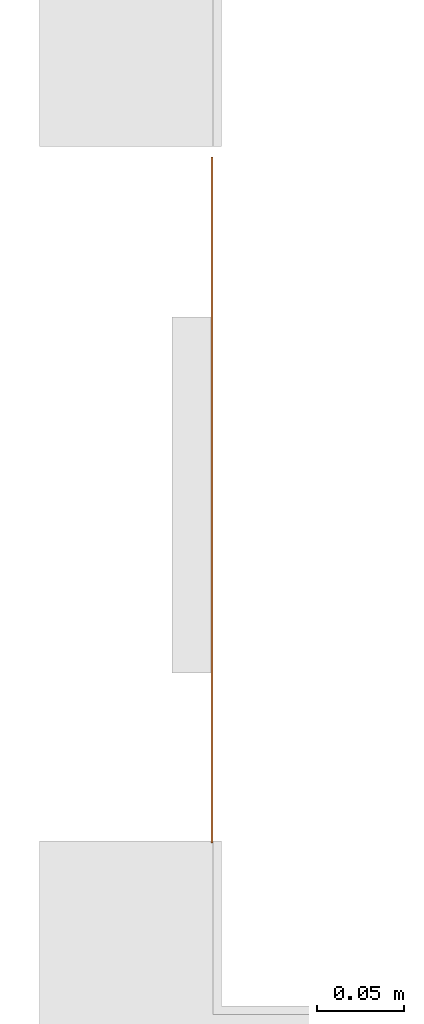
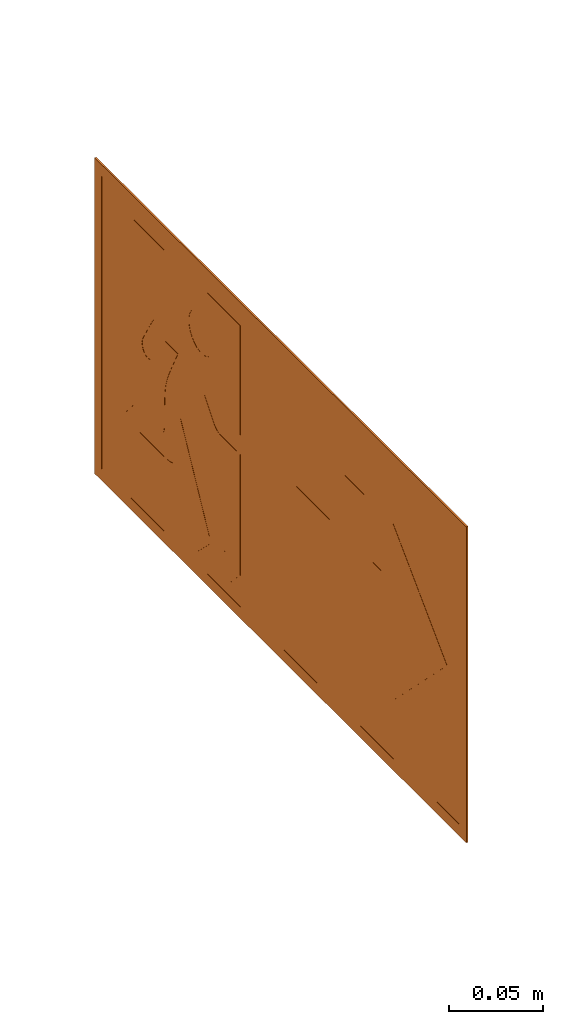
# One storey, part 30 of 119: 1 proxy.
"""IFC2X3 building model written with IfcOpenShell, lengths in metres."""

from ifc_helpers import new_model, entity, si_unit, converted_unit, derived_unit, direction, frame, frame_2d, origin, origin_2d_with_axis, place, context, subcontext, project, spatial, polyline, circle_curve, parameter, trimmed, segment, composite_curve, rectangle, outline, extrude, source, transform, mapped, material, material_list, type_object, type_shapes, element, save


model = new_model("IFC2X3")

# Units and contexts
model_context = context("Model", 3, precision=1e-05, world=origin(), true_north=direction((6.12303176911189e-17, 1.0)))
body_context = subcontext(model_context, "Body", "Model", "MODEL_VIEW")
ifc_project = project(units=[si_unit("LENGTHUNIT", "METRE"), si_unit("AREAUNIT", "SQUARE_METRE"), si_unit("VOLUMEUNIT", "CUBIC_METRE"), converted_unit("PLANEANGLEUNIT", "DEGREE", entity("IfcRatioMeasure", 0.0174532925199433), si_unit("PLANEANGLEUNIT", "RADIAN"), dimensions=[0, 0, 0, 0, 0, 0, 0]), si_unit("MASSUNIT", "GRAM", prefix="KILO"), derived_unit("MASSDENSITYUNIT", [(si_unit("MASSUNIT", "GRAM", prefix="KILO"), 1), (si_unit("LENGTHUNIT", "METRE"), -3)]), derived_unit("MOMENTOFINERTIAUNIT", [(si_unit("LENGTHUNIT", "METRE"), 4)]), si_unit("TIMEUNIT", "SECOND"), si_unit("FREQUENCYUNIT", "HERTZ"), si_unit("THERMODYNAMICTEMPERATUREUNIT", "DEGREE_CELSIUS"), derived_unit("THERMALTRANSMITTANCEUNIT", [(si_unit("MASSUNIT", "GRAM", prefix="KILO"), 1), (si_unit("THERMODYNAMICTEMPERATUREUNIT", "KELVIN"), -1), (si_unit("TIMEUNIT", "SECOND"), -3)]), derived_unit("VOLUMETRICFLOWRATEUNIT", [(si_unit("LENGTHUNIT", "METRE"), 3), (si_unit("TIMEUNIT", "SECOND"), -1)]), si_unit("ELECTRICCURRENTUNIT", "AMPERE"), si_unit("ELECTRICVOLTAGEUNIT", "VOLT"), si_unit("POWERUNIT", "WATT"), si_unit("FORCEUNIT", "NEWTON", prefix="KILO"), si_unit("ILLUMINANCEUNIT", "LUX"), si_unit("LUMINOUSFLUXUNIT", "LUMEN"), si_unit("LUMINOUSINTENSITYUNIT", "CANDELA"), derived_unit("USERDEFINED", [(si_unit("MASSUNIT", "GRAM", prefix="KILO"), -1), (si_unit("LENGTHUNIT", "METRE"), -2), (si_unit("TIMEUNIT", "SECOND"), 3), (si_unit("LUMINOUSFLUXUNIT", "LUMEN"), 1)]), derived_unit("LINEARVELOCITYUNIT", [(si_unit("LENGTHUNIT", "METRE"), 1), (si_unit("TIMEUNIT", "SECOND"), -1)]), si_unit("PRESSUREUNIT", "PASCAL"), derived_unit("USERDEFINED", [(si_unit("LENGTHUNIT", "METRE"), -2), (si_unit("MASSUNIT", "GRAM", prefix="KILO"), 1), (si_unit("TIMEUNIT", "SECOND"), -2)]), derived_unit("LINEARFORCEUNIT", [(si_unit("MASSUNIT", "GRAM", prefix="KILO"), 1), (si_unit("LENGTHUNIT", "METRE"), 1), (si_unit("TIMEUNIT", "SECOND"), -2), (si_unit("LENGTHUNIT", "METRE"), -1)]), derived_unit("PLANARFORCEUNIT", [(si_unit("MASSUNIT", "GRAM", prefix="KILO"), 1), (si_unit("LENGTHUNIT", "METRE"), 1), (si_unit("TIMEUNIT", "SECOND"), -2), (si_unit("LENGTHUNIT", "METRE"), -2)])], contexts=[model_context])

# Site, building, storey
site_placement = place(None, origin())
site = spatial("IfcSite", under=ifc_project, at=site_placement, Name="Default", CompositionType="ELEMENT")
building_placement = place(site_placement, origin())
building = spatial("IfcBuilding", under=site, at=building_placement, CompositionType="ELEMENT")
storey_placement = place(building_placement, origin())
storey = spatial("IfcBuildingStorey", under=building, at=storey_placement, Name="PAV. 01 - TÉRREO", CompositionType="ELEMENT", Elevation=0.0)

# Proxy
ifc_material_1 = material(Name="Plastico branco")
ifc_material_2 = material(Name="Plastico Verde")
ifc_material_list = material_list([ifc_material_1, ifc_material_2])
building_element_proxy_type = type_object("IfcBuildingElementProxyType", Name="Sinalização de orientação - S01 - Indicação do sentido da saída de emergência direita:Distância 12m", PredefinedType="NOTDEFINED", material=ifc_material_1)
shared_shape = source(origin(), body_context, "Body", "SweptSolid", [
    extrude(outline(polyline([(0.0124622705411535, 0.0340163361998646), (0.0116069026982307, 0.0335634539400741), (0.0110082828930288, 0.0323153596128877), (0.0106205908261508, 0.0304379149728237), (0.0103980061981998, 0.0280969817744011), (0.0102947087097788, 0.0254584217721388), (0.0102359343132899, 0.0148408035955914), (0.0100952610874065, 0.0101688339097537), (0.00995272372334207, 0.00797089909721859), (0.00974625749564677, 0.00585117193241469), (0.00946401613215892, 0.00379928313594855), (0.00909414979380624, 0.0018048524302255), (0.00861827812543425, -0.000162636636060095), (0.00799797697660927, -0.00219550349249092), (0.00719098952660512, -0.00439788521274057), (0.00615505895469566, -0.0068739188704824), (0.00484792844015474, -0.00972774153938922), (0.00322734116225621, -0.0130634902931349), (-0.00393772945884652, -0.0270036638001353), (0.00911414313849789, -0.0269659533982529), (0.00975353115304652, -0.0269418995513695), (0.0101589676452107, -0.0269097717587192), (0.0104072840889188, -0.0268684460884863), (0.0105753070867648, -0.026816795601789), (0.0107283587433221, -0.0267465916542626), (0.0108956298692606, -0.0266273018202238), (0.0110992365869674, -0.0264240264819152), (0.0113612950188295, -0.02610186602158), (0.0117039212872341, -0.02562592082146), (0.0121492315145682, -0.0249612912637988), (0.0134363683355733, -0.022926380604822), (0.0220622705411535, -0.00866366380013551), (0.0231418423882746, -0.00739752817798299), (0.024244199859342, -0.00641124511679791), (0.0253551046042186, -0.00568750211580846), (0.026460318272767, -0.0052089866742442), (0.0275456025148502, -0.00495838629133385), (0.0285967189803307, -0.00491838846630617), (0.0295994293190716, -0.00507168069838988), (0.0305394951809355, -0.00540095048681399), (0.0314026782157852, -0.00588888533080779), (0.0321747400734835, -0.00651817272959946), (0.0328414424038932, -0.0072715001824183), (0.033388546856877, -0.00813155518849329), (0.0338018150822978, -0.00908102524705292), (0.0340670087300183, -0.0101025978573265), (0.0341698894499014, -0.0111789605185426), (0.0340962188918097, -0.0122928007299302), (0.0338317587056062, -0.0134268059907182), (0.0333622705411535, -0.0145636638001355), (0.027258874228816, -0.0250738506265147), (0.0231922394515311, -0.0317577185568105), (0.020455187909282, -0.0355759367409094), (0.0183405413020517, -0.0374891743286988), (0.0161486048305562, -0.0384492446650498), (0.0134863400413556, -0.0390450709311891), (0.0103684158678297, -0.0393831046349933), (0.00683771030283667, -0.0395364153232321), (-0.0223273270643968, -0.0395794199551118), (-0.0254276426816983, -0.0395207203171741), (-0.0281392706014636, -0.0392326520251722), (-0.0306250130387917, -0.0385308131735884), (-0.0330476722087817, -0.0372308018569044), (-0.0355700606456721, -0.0351482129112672), (-0.0383972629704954, -0.0320852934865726), (-0.0418729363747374, -0.0278005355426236), (-0.0522577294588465, -0.0145636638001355), (-0.0701177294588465, -0.0145636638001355), (-0.0701177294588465, -0.0855036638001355), (0.0426422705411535, -0.0855036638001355), (0.0426422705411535, 0.0290963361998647), (0.0481022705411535, 0.0290963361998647), (0.0680622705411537, 0.0537563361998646), (0.0426422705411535, 0.0537563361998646), (0.0426422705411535, 0.0764363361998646), (0.0551222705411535, 0.0891363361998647), (-0.0240977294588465, 0.0891363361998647), (-0.0371577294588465, 0.0764363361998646), (-0.0542977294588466, 0.0764363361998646), (-0.039344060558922, 0.0891363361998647), (-0.0579777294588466, 0.0891363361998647), (-0.0701177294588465, 0.0764363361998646), (-0.0701177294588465, -0.00182366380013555), (-0.0500921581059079, -0.00182052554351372), (-0.048376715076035, -0.00187323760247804), (-0.0469973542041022, -0.00203451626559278), (-0.0458400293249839, -0.00235707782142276), (-0.0447906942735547, -0.00289363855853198), (-0.0437353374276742, -0.0036968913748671), (-0.0425823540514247, -0.00480435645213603), (-0.0413011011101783, -0.00621227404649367), (-0.0398712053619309, -0.00790993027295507), (-0.0322577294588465, -0.0173836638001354), (-0.0217377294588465, 0.00417633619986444), (-0.0542977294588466, 0.0709363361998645), (-0.0371577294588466, 0.0709363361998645), (-0.00639772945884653, 0.0127763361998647), (-0.00393772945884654, 0.0340163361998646), (-0.00373167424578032, 0.0366224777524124), (-0.00346846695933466, 0.0389264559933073), (-0.00310194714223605, 0.0409426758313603), (-0.00258595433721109, 0.0426855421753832), (-0.00187432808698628, 0.0441694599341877), (-0.000920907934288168, 0.0454088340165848), (0.000320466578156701, 0.0464180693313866), (0.00189595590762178, 0.0472115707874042), (0.00385172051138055, 0.0478037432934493), (0.00623392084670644, 0.0482089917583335), (0.00908871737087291, 0.0484417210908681), (0.0124622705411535, 0.0485163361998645), (0.0551222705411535, 0.0485163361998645), (0.0426422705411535, 0.0340163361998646), (0.0124622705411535, 0.0340163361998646)]), holes=[composite_curve([segment(trimmed(circle_curve(frame_2d((-0.0288977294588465, -0.0559436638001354), x_axis=(-1.0, 0.0)), 0.0134), [parameter(180.0)], [parameter(360.0)], True, "PARAMETER"), False, "CONTINUOUS"), segment(trimmed(circle_curve(frame_2d((-0.0288977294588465, -0.0559436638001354), x_axis=(-1.0, 0.0)), 0.0134), [parameter(2.03555499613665e-13)], [parameter(180.0)], True, "PARAMETER"), False, "CONTINUOUS")], self_intersect=False)]), frame((-0.112957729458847, -0.00110000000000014, 1.90431633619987), z_axis=(0.0, -1.0, 0.0), x_axis=(-1.0, 0.0, 0.0)), (0.0, 0.0, -1.0), 0.0011),
    extrude(outline(polyline([(-0.102500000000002, -0.197500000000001), (0.102500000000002, -0.197500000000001), (0.102500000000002, 0.197500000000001), (-0.102500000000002, 0.197500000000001), (-0.102500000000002, -0.197500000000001)]), holes=[polyline([(-0.0950000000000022, -0.190000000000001), (-0.0950000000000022, 0.189999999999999), (0.0949999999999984, 0.189999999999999), (0.0949999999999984, -0.190000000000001), (-0.0950000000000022, -0.190000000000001)])]), frame((0.0, -0.0011, 1.9025), z_axis=(0.0, 1.0, 0.0), x_axis=(0.0, 0.0, -1.0)), (0.0, 0.0, 1.0), 0.0011),
    extrude(rectangle(XDim=0.001, YDim=0.38, at=origin_2d_with_axis()), frame((0.0, -0.0005, 1.8075), z_axis=(0.0, 0.0, 1.0), x_axis=(0.0, 1.0, 0.0)), (0.0, 0.0, 1.0), 0.190000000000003),
    extrude(outline(polyline([(-0.0165808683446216, -0.0648778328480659), (0.0648778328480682, -0.0648778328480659), (0.0648778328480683, 0.016580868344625), (0.0289709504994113, 0.0524877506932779), (0.0289709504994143, -0.00190290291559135), (-0.0467319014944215, 0.073799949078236), (-0.0737999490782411, 0.0467319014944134), (0.00190290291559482, -0.0289709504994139), (-0.0524877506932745, -0.028970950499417), (-0.0165808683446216, -0.0648778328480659)])), frame((0.0852288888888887, -0.0011, 1.9025), z_axis=(0.0, 1.0, 0.0), x_axis=(0.707106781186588, 0.0, -0.707106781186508)), (0.0, 0.0, 1.0), 0.0011),
])
type_shapes(building_element_proxy_type, [shared_shape])
proxy_placement = place(storey_placement, frame((20.8738567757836, 6.42504972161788, 0.0), z_axis=(0.0, 0.0, 1.0), x_axis=(0.0, -1.0, 0.0)))
element("IfcBuildingElementProxy", 1, at=proxy_placement, inside=storey, type_object=building_element_proxy_type, material=ifc_material_list, Name="Sinalização de orientação - S01 - Indicação do sentido da saída de emergência direita:Distância 12m", ObjectType="Sinalização de orientação - S01 - Indicação do sentido da saída de emergência direita:Distância 12m", context=body_context, shape_type="MappedRepresentation", body=[
    mapped(shared_shape, transform((0.0, 0.0, 0.0), scale=1.0)),
])

save(model, "model.ifc")
